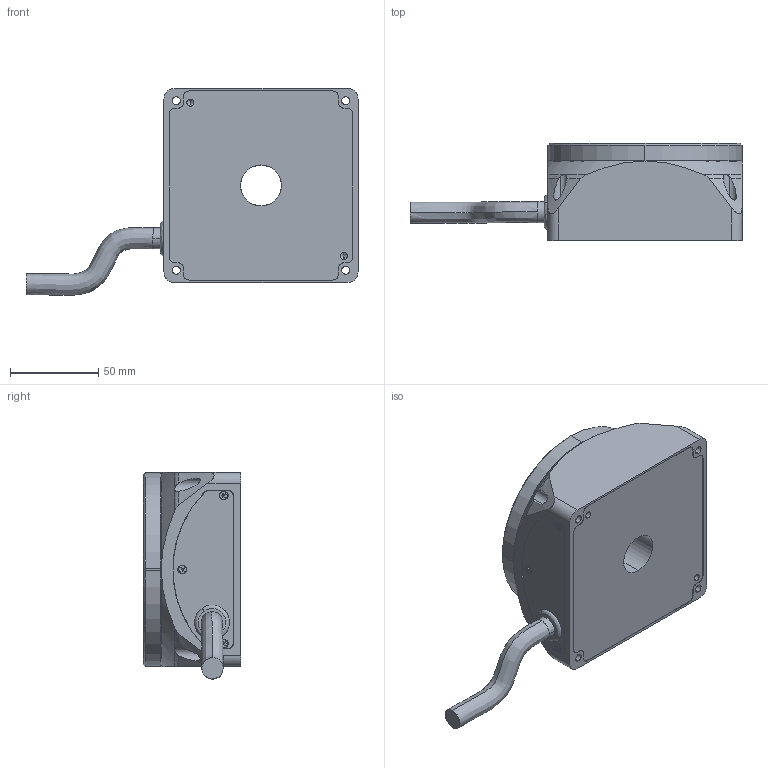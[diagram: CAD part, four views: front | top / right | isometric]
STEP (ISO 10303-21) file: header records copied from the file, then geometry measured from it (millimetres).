
FILE_DESCRIPTION (( 'STEP AP214' ), '1' );
FILE_NAME ('1-5018-0110A-PDR110C_STAGE.STEP', '2018-10-04T15:40:58', ( '' ), ( '' ), 'SwSTEP 2.0', 'SolidWorks 2016', '' );
FILE_SCHEMA (( 'AUTOMOTIVE_DESIGN' ));
Length unit declared in the file: millimetre
Products named in the file (1): 1-5018-0110A-PDR110C_STAGE
Bounding box: 188.23 x 55 x 117.38 mm (x, y, z)
Volume: 601055.9 mm3; surface area: 55836.2 mm2
Topology: 1 solids, 8 shells, 285 faces, 662 edges, 395 vertices
Faces by surface type: plane 122, cylinder 95, cone 44, bspline 24
Entity records: 9090 total; most frequent: CARTESIAN_POINT 2717, DIRECTION 1340, ORIENTED_EDGE 1284, EDGE_CURVE 642, AXIS2_PLACEMENT_3D 508, VERTEX_POINT 395, EDGE_LOOP 325, VECTOR 324
